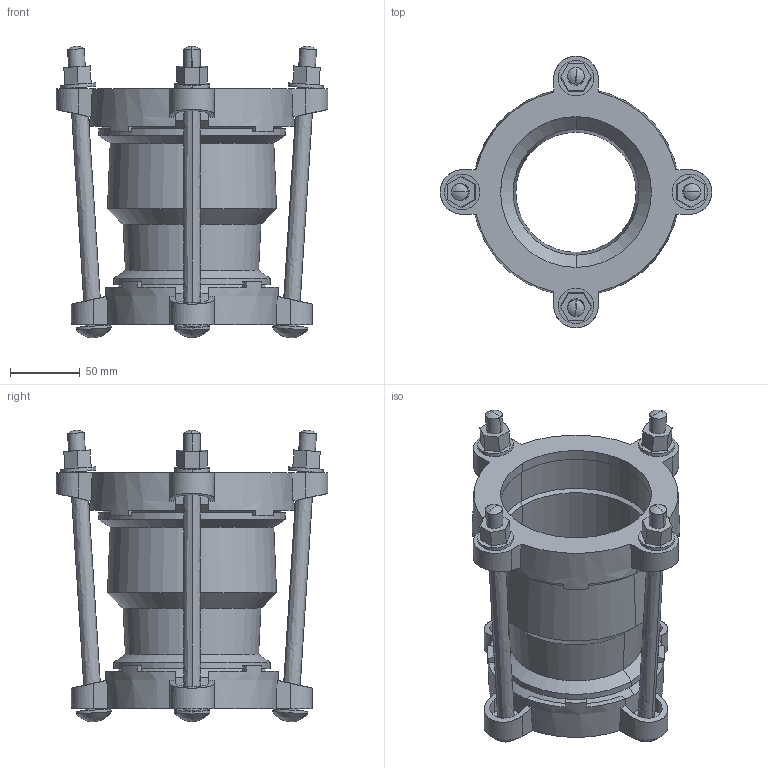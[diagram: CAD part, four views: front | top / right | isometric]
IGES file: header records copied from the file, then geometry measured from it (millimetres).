
Start section:  PTC IGES file: stepped_maxifit_85-85.igs
Global section: file name: stepped_maxifit_85-85.igs; native system: Creo Parametric by PTC Inc.; preprocessor: 2016130; author: MReader; organization: Unknown; date: 20181010.093306; units: millimetre
Bounding box: 195.5 x 195.5 x 209.56 mm (x, y, z)
Surface area: 227219.8 mm2 (no closed solid volume)
Topology: 0 solids, 0 shells, 282 faces, 1448 edges, 1432 vertices
Faces by surface type: revolution 160, bspline 122
